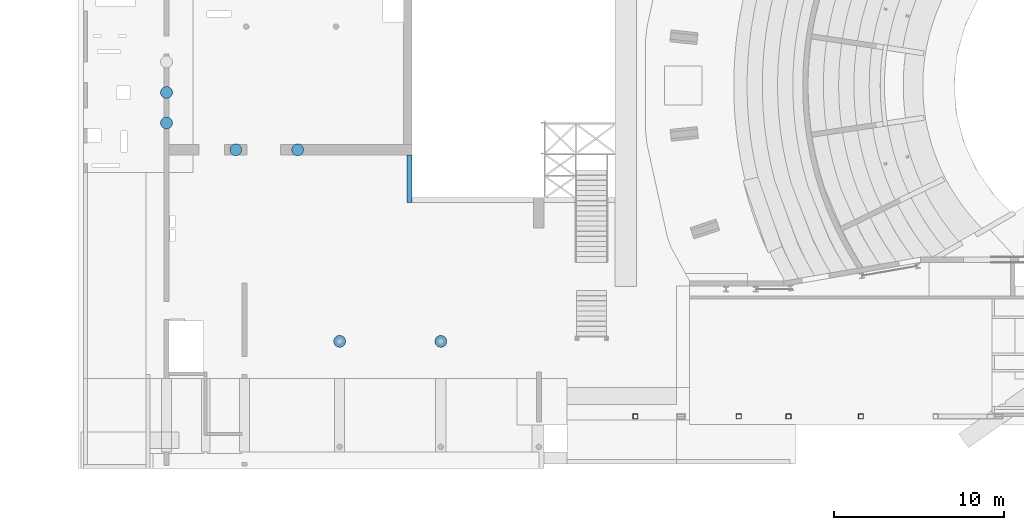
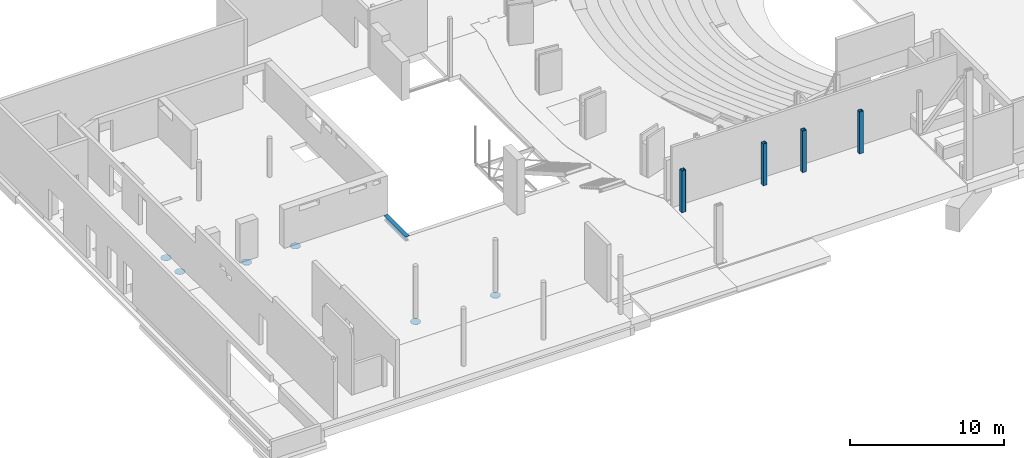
# One storey, part 12 of 34: 11 beams.
"""IFC2X3 building model written with IfcOpenShell, lengths in millimetres."""

from ifc_helpers import new_model, entity, si_unit, converted_unit, derived_unit, direction, frame, frame_2d, origin, origin_2d_with_axis, place, context, subcontext, project, spatial, polyline, circle_curve, parameter, trimmed, segment, composite_curve, rectangle, circle, outline, extrude, clip, halfspace, source, transform, mapped, material, type_object, type_shapes, element, save


model = new_model("IFC2X3")

# Units and contexts
model_context = context("Model", 3, precision=0.01, world=origin(), true_north=direction((6.12303176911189e-17, 1.0)))
body_context = subcontext(model_context, "Body", "Model", "MODEL_VIEW")
ifc_project = project(units=[si_unit("LENGTHUNIT", "METRE", prefix="MILLI"), si_unit("AREAUNIT", "SQUARE_METRE", prefix="MILLI"), si_unit("VOLUMEUNIT", "CUBIC_METRE"), converted_unit("PLANEANGLEUNIT", "DEGREE", entity("IfcRatioMeasure", 0.0174532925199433), si_unit("PLANEANGLEUNIT", "RADIAN"), dimensions=[0, 0, 0, 0, 0, 0, 0]), si_unit("MASSUNIT", "GRAM", prefix="KILO"), derived_unit("MASSDENSITYUNIT", [(si_unit("MASSUNIT", "GRAM", prefix="KILO"), 1), (si_unit("LENGTHUNIT", "METRE"), -3)]), derived_unit("MOMENTOFINERTIAUNIT", [(si_unit("LENGTHUNIT", "METRE"), 4)]), si_unit("TIMEUNIT", "SECOND"), si_unit("FREQUENCYUNIT", "HERTZ"), si_unit("THERMODYNAMICTEMPERATUREUNIT", "DEGREE_CELSIUS"), derived_unit("THERMALTRANSMITTANCEUNIT", [(si_unit("MASSUNIT", "GRAM", prefix="KILO"), 1), (si_unit("THERMODYNAMICTEMPERATUREUNIT", "KELVIN"), -1), (si_unit("TIMEUNIT", "SECOND"), -3)]), derived_unit("VOLUMETRICFLOWRATEUNIT", [(si_unit("LENGTHUNIT", "METRE"), 3), (si_unit("TIMEUNIT", "SECOND"), -1)]), si_unit("ELECTRICCURRENTUNIT", "AMPERE"), si_unit("ELECTRICVOLTAGEUNIT", "VOLT"), si_unit("POWERUNIT", "WATT"), si_unit("FORCEUNIT", "NEWTON", prefix="KILO"), si_unit("ILLUMINANCEUNIT", "LUX"), si_unit("LUMINOUSFLUXUNIT", "LUMEN"), si_unit("LUMINOUSINTENSITYUNIT", "CANDELA"), derived_unit("USERDEFINED", [(si_unit("MASSUNIT", "GRAM", prefix="KILO"), -1), (si_unit("LENGTHUNIT", "METRE"), -2), (si_unit("TIMEUNIT", "SECOND"), 3), (si_unit("LUMINOUSFLUXUNIT", "LUMEN"), 1)]), derived_unit("LINEARVELOCITYUNIT", [(si_unit("LENGTHUNIT", "METRE"), 1), (si_unit("TIMEUNIT", "SECOND"), -1)]), si_unit("PRESSUREUNIT", "PASCAL"), derived_unit("USERDEFINED", [(si_unit("LENGTHUNIT", "METRE"), -2), (si_unit("MASSUNIT", "GRAM", prefix="KILO"), 1), (si_unit("TIMEUNIT", "SECOND"), -2)]), derived_unit("LINEARFORCEUNIT", [(si_unit("MASSUNIT", "GRAM", prefix="KILO"), 1), (si_unit("LENGTHUNIT", "METRE"), 1), (si_unit("TIMEUNIT", "SECOND"), -2), (si_unit("LENGTHUNIT", "METRE"), -1)]), derived_unit("PLANARFORCEUNIT", [(si_unit("MASSUNIT", "GRAM", prefix="KILO"), 1), (si_unit("LENGTHUNIT", "METRE"), 1), (si_unit("TIMEUNIT", "SECOND"), -2), (si_unit("LENGTHUNIT", "METRE"), -2)])], contexts=[model_context])

# Site, building, storey
site_placement = place(None, origin())
site = spatial("IfcSite", under=ifc_project, at=site_placement, Name="Theater aan de Parade", CompositionType="ELEMENT")
building_placement = place(site_placement, origin())
building = spatial("IfcBuilding", under=site, at=building_placement, Name="Theater aan de Parade", CompositionType="ELEMENT")
storey_placement = place(building_placement, frame((0.0, 0.0, 3.49116848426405e-09)))
storey = spatial("IfcBuildingStorey", under=building, at=storey_placement, Name="00 begane grond", CompositionType="ELEMENT", Elevation=3.49116848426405e-09)

# Beams
ifc_material = material(Name="00_PBT_MAT_staal_S355")
beam_type_1 = type_object("IfcBeamType", Name="28_PBT_SF_staal_koker:S355_K300x300x16", PredefinedType="NOTDEFINED")
beam_1_placement = place(storey_placement, frame((42844.5520755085, 12955.0, 4680.0), z_axis=(1.0, 0.0, 0.0), x_axis=(0.0, 0.0, 1.0)))
element("IfcBeam", 1, at=beam_1_placement, inside=storey, type_object=beam_type_1, material=ifc_material, Name="28_PBT_SF_staal_koker:S355_K300x300x16", ObjectType="28_PBT_SF_staal_koker:S355_K300x300x16", context=body_context, shape_type="SweptSolid", body=[
    extrude(outline(composite_curve([segment(polyline([(-125.0, -150.0), (125.0, -150.0)]), True, "CONTINUOUS"), segment(trimmed(circle_curve(frame_2d((125.0, -125.0), x_axis=(0.0, 1.0)), 25.0), [parameter(180.0)], [parameter(270.0)], True, "PARAMETER"), True, "CONTINUOUS"), segment(polyline([(150.0, -125.0), (150.0, 125.0)]), True, "CONTINUOUS"), segment(trimmed(circle_curve(frame_2d((125.0, 125.0), x_axis=(0.0, 1.0)), 25.0), [parameter(270.0)], [parameter(360.0)], True, "PARAMETER"), True, "CONTINUOUS"), segment(polyline([(125.0, 150.0), (-125.0, 150.0)]), True, "CONTINUOUS"), segment(trimmed(circle_curve(frame_2d((-125.0, 125.0), x_axis=(0.0, 1.0)), 25.0), [parameter(0.0)], [parameter(90.0000000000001)], True, "PARAMETER"), True, "CONTINUOUS"), segment(polyline([(-150.0, 125.0), (-150.0, -125.0)]), True, "CONTINUOUS"), segment(trimmed(circle_curve(frame_2d((-125.0, -125.0), x_axis=(0.0, 1.0)), 25.0), [parameter(89.9999999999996)], [parameter(180.0)], True, "PARAMETER"), True, "CONTINUOUS")], self_intersect=False), holes=[composite_curve([segment(polyline([(134.0, 118.0), (134.0, -118.0)]), True, "CONTINUOUS"), segment(trimmed(circle_curve(frame_2d((118.0, -118.0), x_axis=(0.0, 1.0)), 16.0), [parameter(180.0)], [parameter(270.0)], True, "PARAMETER"), False, "CONTINUOUS"), segment(polyline([(118.0, -134.0), (-118.0, -134.0)]), True, "CONTINUOUS"), segment(trimmed(circle_curve(frame_2d((-118.0, -118.0), x_axis=(0.0, 1.0)), 16.0), [parameter(90.0)], [parameter(180.0)], True, "PARAMETER"), False, "CONTINUOUS"), segment(polyline([(-134.0, -118.0), (-134.0, 118.0)]), True, "CONTINUOUS"), segment(trimmed(circle_curve(frame_2d((-118.0, 118.0), x_axis=(0.0, 1.0)), 16.0), [parameter(3.56222124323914e-13)], [parameter(90.0000000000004)], True, "PARAMETER"), False, "CONTINUOUS"), segment(polyline([(-118.0, 134.0), (118.0, 134.0)]), True, "CONTINUOUS"), segment(trimmed(circle_curve(frame_2d((118.0, 118.0), x_axis=(0.0, 1.0)), 16.0), [parameter(270.0)], [parameter(5.08888749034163e-14)], True, "PARAMETER"), False, "CONTINUOUS")], self_intersect=False)]), frame((212.699999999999, 0.0, 0.0), z_axis=(1.0, 0.0, 0.0), x_axis=(0.0, 0.0, 1.0)), (0.0, 0.0, 1.0), 3304.6),
])
beam_2_placement = place(storey_placement, frame((48938.5520755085, 12955.0, 4680.0), z_axis=(1.0, 0.0, 0.0), x_axis=(0.0, 0.0, 1.0)))
element("IfcBeam", 2, at=beam_2_placement, inside=storey, type_object=beam_type_1, material=ifc_material, Name="28_PBT_SF_staal_koker:S355_K300x300x16", ObjectType="28_PBT_SF_staal_koker:S355_K300x300x16", context=body_context, shape_type="SweptSolid", body=[
    extrude(outline(composite_curve([segment(polyline([(-125.0, -150.0), (125.0, -150.0)]), True, "CONTINUOUS"), segment(trimmed(circle_curve(frame_2d((125.0, -125.0), x_axis=(0.0, 1.0)), 25.0), [parameter(180.0)], [parameter(270.0)], True, "PARAMETER"), True, "CONTINUOUS"), segment(polyline([(150.0, -125.0), (150.0, 125.0)]), True, "CONTINUOUS"), segment(trimmed(circle_curve(frame_2d((125.0, 125.0), x_axis=(0.0, 1.0)), 25.0), [parameter(270.0)], [parameter(360.0)], True, "PARAMETER"), True, "CONTINUOUS"), segment(polyline([(125.0, 150.0), (-125.0, 150.0)]), True, "CONTINUOUS"), segment(trimmed(circle_curve(frame_2d((-125.0, 125.0), x_axis=(0.0, 1.0)), 25.0), [parameter(0.0)], [parameter(90.0000000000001)], True, "PARAMETER"), True, "CONTINUOUS"), segment(polyline([(-150.0, 125.0), (-150.0, -125.0)]), True, "CONTINUOUS"), segment(trimmed(circle_curve(frame_2d((-125.0, -125.0), x_axis=(0.0, 1.0)), 25.0), [parameter(89.9999999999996)], [parameter(180.0)], True, "PARAMETER"), True, "CONTINUOUS")], self_intersect=False), holes=[composite_curve([segment(polyline([(134.0, 118.0), (134.0, -118.0)]), True, "CONTINUOUS"), segment(trimmed(circle_curve(frame_2d((118.0, -118.0), x_axis=(0.0, 1.0)), 16.0), [parameter(180.0)], [parameter(270.0)], True, "PARAMETER"), False, "CONTINUOUS"), segment(polyline([(118.0, -134.0), (-118.0, -134.0)]), True, "CONTINUOUS"), segment(trimmed(circle_curve(frame_2d((-118.0, -118.0), x_axis=(0.0, 1.0)), 16.0), [parameter(90.0)], [parameter(180.0)], True, "PARAMETER"), False, "CONTINUOUS"), segment(polyline([(-134.0, -118.0), (-134.0, 118.0)]), True, "CONTINUOUS"), segment(trimmed(circle_curve(frame_2d((-118.0, 118.0), x_axis=(0.0, 1.0)), 16.0), [parameter(3.56222124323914e-13)], [parameter(90.0000000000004)], True, "PARAMETER"), False, "CONTINUOUS"), segment(polyline([(-118.0, 134.0), (118.0, 134.0)]), True, "CONTINUOUS"), segment(trimmed(circle_curve(frame_2d((118.0, 118.0), x_axis=(0.0, 1.0)), 16.0), [parameter(270.0)], [parameter(5.08888749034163e-14)], True, "PARAMETER"), False, "CONTINUOUS")], self_intersect=False)]), frame((212.699999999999, 0.0, 0.0), z_axis=(1.0, 0.0, 0.0), x_axis=(0.0, 0.0, 1.0)), (0.0, 0.0, 1.0), 3304.6),
])
beam_3_placement = place(storey_placement, frame((51874.5520755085, 12955.0, 4680.0), z_axis=(1.0, 0.0, 0.0), x_axis=(0.0, 0.0, 1.0)))
element("IfcBeam", 3, at=beam_3_placement, inside=storey, type_object=beam_type_1, material=ifc_material, Name="28_PBT_SF_staal_koker:S355_K300x300x16", ObjectType="28_PBT_SF_staal_koker:S355_K300x300x16", context=body_context, shape_type="SweptSolid", body=[
    extrude(outline(composite_curve([segment(polyline([(-125.0, -150.0), (125.0, -150.0)]), True, "CONTINUOUS"), segment(trimmed(circle_curve(frame_2d((125.0, -125.0), x_axis=(0.0, 1.0)), 25.0), [parameter(180.0)], [parameter(270.0)], True, "PARAMETER"), True, "CONTINUOUS"), segment(polyline([(150.0, -125.0), (150.0, 125.0)]), True, "CONTINUOUS"), segment(trimmed(circle_curve(frame_2d((125.0, 125.0), x_axis=(0.0, 1.0)), 25.0), [parameter(270.0)], [parameter(360.0)], True, "PARAMETER"), True, "CONTINUOUS"), segment(polyline([(125.0, 150.0), (-125.0, 150.0)]), True, "CONTINUOUS"), segment(trimmed(circle_curve(frame_2d((-125.0, 125.0), x_axis=(0.0, 1.0)), 25.0), [parameter(0.0)], [parameter(90.0000000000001)], True, "PARAMETER"), True, "CONTINUOUS"), segment(polyline([(-150.0, 125.0), (-150.0, -125.0)]), True, "CONTINUOUS"), segment(trimmed(circle_curve(frame_2d((-125.0, -125.0), x_axis=(0.0, 1.0)), 25.0), [parameter(89.9999999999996)], [parameter(180.0)], True, "PARAMETER"), True, "CONTINUOUS")], self_intersect=False), holes=[composite_curve([segment(polyline([(134.0, 118.0), (134.0, -118.0)]), True, "CONTINUOUS"), segment(trimmed(circle_curve(frame_2d((118.0, -118.0), x_axis=(0.0, 1.0)), 16.0), [parameter(180.0)], [parameter(270.0)], True, "PARAMETER"), False, "CONTINUOUS"), segment(polyline([(118.0, -134.0), (-118.0, -134.0)]), True, "CONTINUOUS"), segment(trimmed(circle_curve(frame_2d((-118.0, -118.0), x_axis=(0.0, 1.0)), 16.0), [parameter(90.0)], [parameter(180.0)], True, "PARAMETER"), False, "CONTINUOUS"), segment(polyline([(-134.0, -118.0), (-134.0, 118.0)]), True, "CONTINUOUS"), segment(trimmed(circle_curve(frame_2d((-118.0, 118.0), x_axis=(0.0, 1.0)), 16.0), [parameter(3.56222124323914e-13)], [parameter(90.0000000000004)], True, "PARAMETER"), False, "CONTINUOUS"), segment(polyline([(-118.0, 134.0), (118.0, 134.0)]), True, "CONTINUOUS"), segment(trimmed(circle_curve(frame_2d((118.0, 118.0), x_axis=(0.0, 1.0)), 16.0), [parameter(270.0)], [parameter(5.08888749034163e-14)], True, "PARAMETER"), False, "CONTINUOUS")], self_intersect=False)]), frame((212.699999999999, 0.0, 0.0), z_axis=(1.0, 0.0, 0.0), x_axis=(0.0, 0.0, 1.0)), (0.0, 0.0, 1.0), 3304.6),
])
beam_4_placement = place(storey_placement, frame((56139.5520755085, 12955.0, 4680.0), z_axis=(1.0, 0.0, 0.0), x_axis=(0.0, 0.0, 1.0)))
element("IfcBeam", 4, at=beam_4_placement, inside=storey, type_object=beam_type_1, material=ifc_material, Name="28_PBT_SF_staal_koker:S355_K300x300x16", ObjectType="28_PBT_SF_staal_koker:S355_K300x300x16", context=body_context, shape_type="SweptSolid", body=[
    extrude(outline(composite_curve([segment(polyline([(-125.0, -150.0), (125.0, -150.0)]), True, "CONTINUOUS"), segment(trimmed(circle_curve(frame_2d((125.0, -125.0), x_axis=(0.0, 1.0)), 25.0), [parameter(180.0)], [parameter(270.0)], True, "PARAMETER"), True, "CONTINUOUS"), segment(polyline([(150.0, -125.0), (150.0, 125.0)]), True, "CONTINUOUS"), segment(trimmed(circle_curve(frame_2d((125.0, 125.0), x_axis=(0.0, 1.0)), 25.0), [parameter(270.0)], [parameter(360.0)], True, "PARAMETER"), True, "CONTINUOUS"), segment(polyline([(125.0, 150.0), (-125.0, 150.0)]), True, "CONTINUOUS"), segment(trimmed(circle_curve(frame_2d((-125.0, 125.0), x_axis=(0.0, 1.0)), 25.0), [parameter(0.0)], [parameter(90.0000000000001)], True, "PARAMETER"), True, "CONTINUOUS"), segment(polyline([(-150.0, 125.0), (-150.0, -125.0)]), True, "CONTINUOUS"), segment(trimmed(circle_curve(frame_2d((-125.0, -125.0), x_axis=(0.0, 1.0)), 25.0), [parameter(89.9999999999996)], [parameter(180.0)], True, "PARAMETER"), True, "CONTINUOUS")], self_intersect=False), holes=[composite_curve([segment(polyline([(134.0, 118.0), (134.0, -118.0)]), True, "CONTINUOUS"), segment(trimmed(circle_curve(frame_2d((118.0, -118.0), x_axis=(0.0, 1.0)), 16.0), [parameter(180.0)], [parameter(270.0)], True, "PARAMETER"), False, "CONTINUOUS"), segment(polyline([(118.0, -134.0), (-118.0, -134.0)]), True, "CONTINUOUS"), segment(trimmed(circle_curve(frame_2d((-118.0, -118.0), x_axis=(0.0, 1.0)), 16.0), [parameter(90.0)], [parameter(180.0)], True, "PARAMETER"), False, "CONTINUOUS"), segment(polyline([(-134.0, -118.0), (-134.0, 118.0)]), True, "CONTINUOUS"), segment(trimmed(circle_curve(frame_2d((-118.0, 118.0), x_axis=(0.0, 1.0)), 16.0), [parameter(3.56222124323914e-13)], [parameter(90.0000000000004)], True, "PARAMETER"), False, "CONTINUOUS"), segment(polyline([(-118.0, 134.0), (118.0, 134.0)]), True, "CONTINUOUS"), segment(trimmed(circle_curve(frame_2d((118.0, 118.0), x_axis=(0.0, 1.0)), 16.0), [parameter(270.0)], [parameter(5.08888749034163e-14)], True, "PARAMETER"), False, "CONTINUOUS")], self_intersect=False)]), frame((212.7, 0.0, 0.0), z_axis=(1.0, 0.0, 0.0), x_axis=(0.0, 0.0, 1.0)), (0.0, 0.0, 1.0), 3304.6),
])
beam_type_2 = type_object("IfcBeamType", Name="28_PBT_SF_staal_H-profiel (void):S355_HE360B", PredefinedType="NOTDEFINED")
beam_5_placement = place(storey_placement, frame((29525.0, 25554.8674033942, -1.03275941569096e-09), z_axis=(0.0, 0.0, 1.0), x_axis=(0.0, 1.0, 0.0)))
element("IfcBeam", 5, at=beam_5_placement, inside=storey, type_object=beam_type_2, material=ifc_material, Name="28_PBT_SF_staal_H-profiel (void):S355_HE360B", ObjectType="28_PBT_SF_staal_H-profiel (void):S355_HE360B", context=body_context, shape_type="SweptSolid", body=[
    extrude(outline(composite_curve([segment(polyline([(157.500000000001, -150.0), (180.0, -150.0)]), True, "CONTINUOUS"), segment(polyline([(180.0, -150.0), (180.0, 150.0)]), True, "CONTINUOUS"), segment(polyline([(180.0, 150.0), (157.499999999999, 150.0)]), True, "CONTINUOUS"), segment(polyline([(157.499999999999, 150.0), (157.499999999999, 33.2500000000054)]), True, "CONTINUOUS"), segment(trimmed(circle_curve(frame_2d((130.500000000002, 33.2500000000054), x_axis=(1.0, 0.0)), 26.9999999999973), [parameter(269.999999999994)], [parameter(0.0)], True, "PARAMETER"), False, "CONTINUOUS"), segment(polyline([(130.5, 6.25000000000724), (-130.500000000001, 6.25000000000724)]), True, "CONTINUOUS"), segment(trimmed(circle_curve(frame_2d((-130.500000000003, 33.2500000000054), x_axis=(0.0, -1.0)), 26.999999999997), [parameter(269.999999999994)], [parameter(0.0)], True, "PARAMETER"), False, "CONTINUOUS"), segment(polyline([(-157.5, 33.2500000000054), (-157.5, 150.0)]), True, "CONTINUOUS"), segment(polyline([(-157.5, 150.0), (-180.0, 150.0)]), True, "CONTINUOUS"), segment(polyline([(-180.0, 150.0), (-180.0, -150.0)]), True, "CONTINUOUS"), segment(polyline([(-180.0, -150.0), (-157.499999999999, -150.0)]), True, "CONTINUOUS"), segment(polyline([(-157.499999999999, -150.0), (-157.499999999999, -33.2499999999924)]), True, "CONTINUOUS"), segment(trimmed(circle_curve(frame_2d((-130.500000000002, -33.2499999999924), x_axis=(-1.0, 0.0)), 26.9999999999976), [parameter(269.999999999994)], [parameter(0.0)], True, "PARAMETER"), False, "CONTINUOUS"), segment(polyline([(-130.499999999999, -6.24999999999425), (130.500000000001, -6.24999999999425)]), True, "CONTINUOUS"), segment(trimmed(circle_curve(frame_2d((130.500000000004, -33.2499999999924), x_axis=(0.0, 1.0)), 26.9999999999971), [parameter(269.999999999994)], [parameter(0.0)], True, "PARAMETER"), False, "CONTINUOUS"), segment(polyline([(157.500000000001, -33.2499999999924), (157.500000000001, -150.0)]), True, "CONTINUOUS")], self_intersect=False)), frame((0.0, 0.0, -270.0), z_axis=(1.0, 0.0, 0.0), x_axis=(0.0, 0.0, -1.0)), (0.0, 0.0, 1.0), 2818.44709644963),
])
beam_type_3 = type_object("IfcBeamType", Name="28_PBT_SF_staal_krans:28_PBT_SF_staal_krans_d=700_323.9", PredefinedType="BEAM", material=ifc_material)
shared_shape = source(origin(), body_context, "Body", "SweptSolid", [
    clip(extrude(rectangle(XDim=150.000000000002, YDim=15.0, at=frame_2d((-7.105427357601e-15, -4.44089209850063e-15), x_axis=(1.0, 0.0))), frame((-118.475000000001, -205.204719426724, -175.0), z_axis=(0.0, 0.0, 1.0), x_axis=(0.499999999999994, 0.866025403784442, 0.0)), (0.0, 0.0, 1.0), 149.999999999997), halfspace(frame((-162.470190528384, -266.406624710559, -75.0), z_axis=(-0.277350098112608, -0.480384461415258, -0.832050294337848), x_axis=(0.866025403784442, -0.499999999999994, 0.0)), False)),
    clip(extrude(rectangle(XDim=150.000000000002, YDim=15.0, at=origin_2d_with_axis()), frame((118.474999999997, 205.204719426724, -175.0), z_axis=(0.0, 0.0, 1.0), x_axis=(0.499999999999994, 0.866025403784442, 0.0)), (0.0, 0.0, 1.0), 149.999999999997), halfspace(frame((149.479809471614, 273.906624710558, -75.0), z_axis=(0.277350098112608, 0.480384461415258, -0.832050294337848), x_axis=(0.866025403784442, -0.499999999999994, 0.0)), False)),
    clip(extrude(rectangle(XDim=150.000000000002, YDim=15.0, at=frame_2d((2.1316282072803e-14, 3.99680288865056e-15), x_axis=(1.0, 0.0))), frame((-118.475, 205.204719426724, -175.0), z_axis=(0.0, 0.0, 1.0), x_axis=(-0.499999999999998, 0.86602540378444, 0.0)), (0.0, 0.0, 1.0), 149.999999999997), halfspace(frame((-162.470190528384, 266.406624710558, -75.0), z_axis=(-0.277350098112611, 0.480384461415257, -0.832050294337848), x_axis=(0.86602540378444, 0.499999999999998, 0.0)), False)),
    clip(extrude(rectangle(XDim=150.000000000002, YDim=15.0, at=frame_2d((-2.1316282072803e-14, 4.44089209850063e-15), x_axis=(1.0, 0.0))), frame((118.475, -205.204719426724, -175.0), z_axis=(0.0, 0.0, 1.0), x_axis=(-0.499999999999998, 0.86602540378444, 0.0)), (0.0, 0.0, 1.0), 149.999999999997), halfspace(frame((149.479809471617, -273.906624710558, -75.0), z_axis=(0.277350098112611, -0.480384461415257, -0.832050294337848), x_axis=(0.86602540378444, 0.499999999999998, 0.0)), False)),
    clip(extrude(rectangle(XDim=15.0, YDim=150.000000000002, at=frame_2d((0.0, -1.4210854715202e-14), x_axis=(1.0, 0.0))), frame((236.950000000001, 0.0, -175.0), z_axis=(0.0, 0.0, 1.0), x_axis=(0.0, -1.0, 0.0)), (0.0, 0.0, 1.0), 149.999999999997), halfspace(frame((311.950000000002, -7.5, -75.0), z_axis=(0.554700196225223, 0.0, -0.832050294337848), x_axis=(0.0, 1.0, 0.0)), False)),
    clip(extrude(rectangle(XDim=15.0, YDim=150.000000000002, at=frame_2d((0.0, 1.4210854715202e-14), x_axis=(1.0, 0.0))), frame((-236.950000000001, 0.0, -175.0), z_axis=(0.0, 0.0, 1.0), x_axis=(0.0, -1.0, 0.0)), (0.0, 0.0, 1.0), 149.999999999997), halfspace(frame((-311.950000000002, -7.5, -75.0), z_axis=(-0.554700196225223, 0.0, -0.832050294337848), x_axis=(0.0, 1.0, 0.0)), False)),
    extrude(circle(Radius=350.0, at=frame_2d((6.76791955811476e-14, 5.85105723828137e-13), x_axis=(1.0, 0.0))), frame((0.0, 0.0, -25.0), z_axis=(0.0, 0.0, 1.0), x_axis=(-1.0, 0.0, 0.0)), (0.0, 0.0, 1.0), 25.0),
])
type_shapes(beam_type_3, [shared_shape])
for number, where, z_axis, x_axis in (
    (6, (31375.0, 17380.0, -410.0), (0.0, 0.0, 1.0), (0.0, 1.0, 0.0)),
    (7, (25410.0, 17380.0, -410.0), (0.0, 0.0, 1.0), (0.0, 1.0, 0.0)),
    (8, (15203.8570025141, 32054.9304192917, -690.0), (0.0, 0.0, 1.0), (-1.0, 0.0, 0.0)),
    (9, (15203.8570025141, 30255.1246824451, -690.0), (0.0, 0.0, 1.0), (-1.0, 0.0, 0.0)),
    (10, (19285.0, 28673.314499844, -410.0), (0.0, 0.0, 1.0), (0.0, -1.0, 0.0)),
    (11, (22935.0, 28673.314499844, -410.0), (0.0, 0.0, 1.0), (0.0, -1.0, 0.0)),
):
    element("IfcBeam", number, at=place(storey_placement, frame(where, z_axis=z_axis, x_axis=x_axis)), inside=storey, type_object=beam_type_3, material=ifc_material, Name="28_PBT_SF_staal_krans:28_PBT_SF_staal_krans_d=700_323.9", ObjectType="28_PBT_SF_staal_krans:28_PBT_SF_staal_krans_d=700_323.9", context=body_context, shape_type="MappedRepresentation", body=[
        mapped(shared_shape, transform((0.0, 0.0, 0.0), scale=1.0)),
    ])

save(model, "model.ifc")
